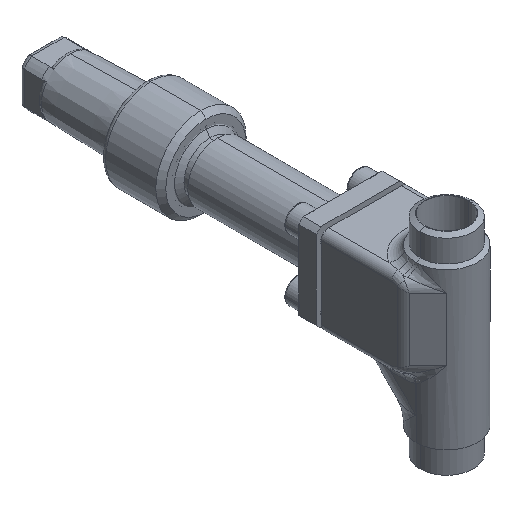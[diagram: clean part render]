
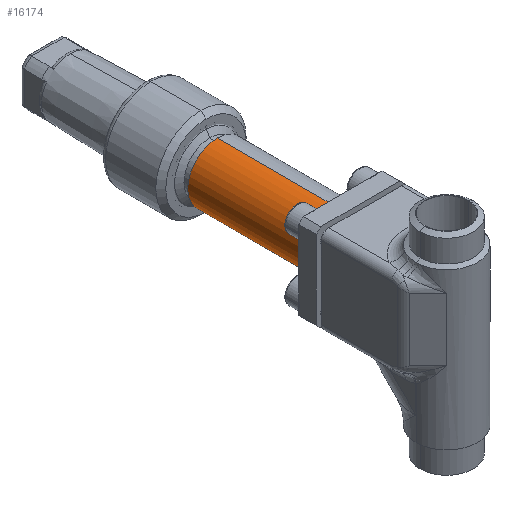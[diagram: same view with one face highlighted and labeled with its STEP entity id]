
A CAD part, isometric view. The second image highlights one B-rep face of the part: STEP entity #16174.
In plain terms, the highlighted cylindrical face has radius 11.75 mm (diameter 23.5 mm), a partial arc.
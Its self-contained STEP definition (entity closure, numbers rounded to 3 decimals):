
#197 = ORIENTED_EDGE ( 'NONE', *, *, #10580, .F. ) ;
#18034 = EDGE_LOOP ( 'NONE', ( #2315, #197, #13873, #13604 ) ) ;
#2315 = ORIENTED_EDGE ( 'NONE', *, *, #9130, .F. ) ;
#2543 = VERTEX_POINT ( 'NONE', #16189 ) ;
#5188 = LINE ( 'NONE', #5189, #5190 ) ;
#5189 = CARTESIAN_POINT ( 'NONE',  ( -11.75, 0., -57. ) ) ;
#5190 = VECTOR ( 'NONE', #5191, 1000. ) ;
#5191 = DIRECTION ( 'NONE',  ( 0., 0., 1. ) ) ;
#6346 = VERTEX_POINT ( 'NONE', #9666 ) ;
#7585 = EDGE_CURVE ( 'NONE', #6346, #10756, #11128, .T. ) ;
#9130 = EDGE_CURVE ( 'NONE', #10006, #2543, #5188, .T. ) ;
#9666 = CARTESIAN_POINT ( 'NONE',  ( 11.75, 0., -57. ) ) ;
#10006 = VERTEX_POINT ( 'NONE', #13671 ) ;
#10580 = EDGE_CURVE ( 'NONE', #6346, #10006, #14320, .T. ) ;
#10756 = VERTEX_POINT ( 'NONE', #14497 ) ;
#10868 = FACE_OUTER_BOUND ( 'NONE', #18034, .T. ) ;
#10889 = CYLINDRICAL_SURFACE ( 'NONE', #10890, 11.75 ) ;
#10890 = AXIS2_PLACEMENT_3D ( 'NONE', #10891, #10892, #10893 ) ;
#10891 = CARTESIAN_POINT ( 'NONE',  ( 0., 0., -57. ) ) ;
#10892 = DIRECTION ( 'NONE',  ( 0., 0., 1. ) ) ;
#10893 = DIRECTION ( 'NONE',  ( 1., 0., 0. ) ) ;
#10971 = EDGE_CURVE ( 'NONE', #10756, #2543, #14595, .T. ) ;
#11128 = LINE ( 'NONE', #11129, #11130 ) ;
#11129 = CARTESIAN_POINT ( 'NONE',  ( 11.75, 0., -57. ) ) ;
#11130 = VECTOR ( 'NONE', #11131, 1000. ) ;
#11131 = DIRECTION ( 'NONE',  ( 0., 0., 1. ) ) ;
#13604 = ORIENTED_EDGE ( 'NONE', *, *, #10971, .T. ) ;
#13671 = CARTESIAN_POINT ( 'NONE',  ( -11.75, 0., -57. ) ) ;
#13873 = ORIENTED_EDGE ( 'NONE', *, *, #7585, .T. ) ;
#14320 = CIRCLE ( 'NONE', #14321, 11.75 ) ;
#14321 = AXIS2_PLACEMENT_3D ( 'NONE', #14322, #14323, #14324 ) ;
#14322 = CARTESIAN_POINT ( 'NONE',  ( 0., 0., -57. ) ) ;
#14323 = DIRECTION ( 'NONE',  ( 0., 0., -1. ) ) ;
#14324 = DIRECTION ( 'NONE',  ( -1., 0., 0. ) ) ;
#14497 = CARTESIAN_POINT ( 'NONE',  ( 11.75, 0., -7.2 ) ) ;
#14595 = CIRCLE ( 'NONE', #14596, 11.75 ) ;
#14596 = AXIS2_PLACEMENT_3D ( 'NONE', #14597, #14598, #14599 ) ;
#14597 = CARTESIAN_POINT ( 'NONE',  ( 0., 0., -7.2 ) ) ;
#14598 = DIRECTION ( 'NONE',  ( 0., 0., -1. ) ) ;
#14599 = DIRECTION ( 'NONE',  ( 1., 0., 0. ) ) ;
#16174 = ADVANCED_FACE ( 'NONE', ( #10868 ), #10889, .T. ) ;
#16189 = CARTESIAN_POINT ( 'NONE',  ( -11.75, 0., -7.2 ) ) ;
